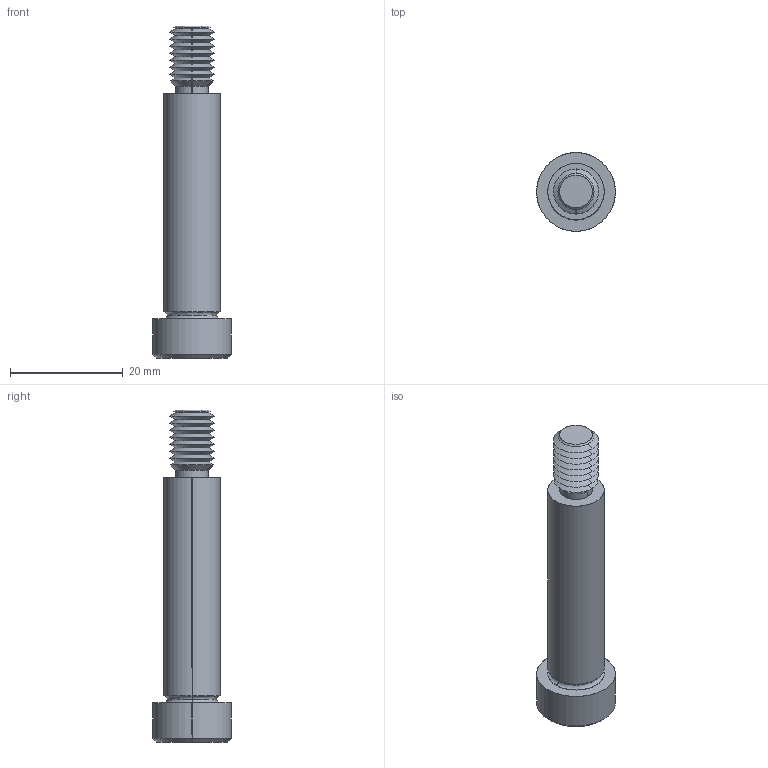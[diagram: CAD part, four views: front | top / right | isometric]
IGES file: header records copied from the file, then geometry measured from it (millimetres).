
Start section: SolidWorks IGES file using analytic representation for surfaces
Global section: file name: C:\Users\IanO\Documents\Temp Folder\GENERAL\SCREW REVISION\P0130_v2\P0130.T5_v2_20220106_IGES\P0130.100-040-T5.igs; native system: SolidWorks 2019; preprocessor: SolidWorks 2019; author: IanO; date: 220106.224321; units: millimetre
Bounding box: 14 x 14 x 59 mm (x, y, z)
Surface area: 2433.2 mm2 (no closed solid volume)
Topology: 0 solids, 0 shells, 72 faces, 548 edges, 546 vertices
Faces by surface type: revolution 52, bspline 20
